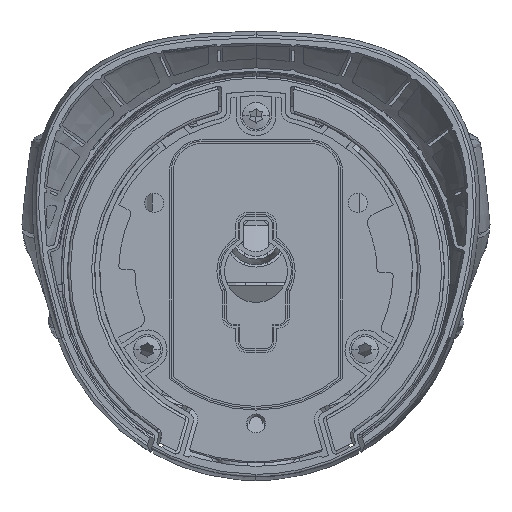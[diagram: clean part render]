
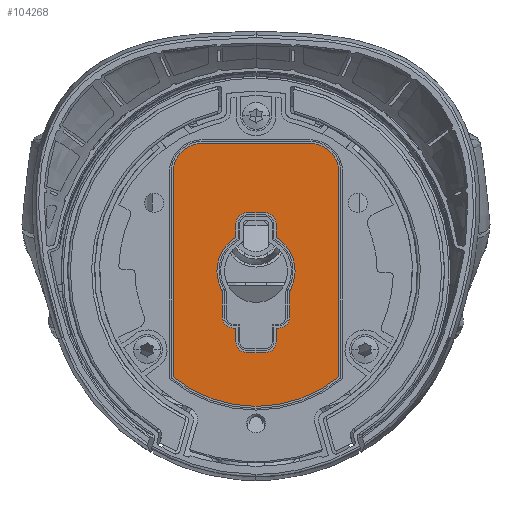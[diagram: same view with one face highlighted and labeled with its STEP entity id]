
A CAD part, front view. The second image highlights one B-rep face of the part: STEP entity #104268.
In plain terms, the highlighted planar face has unit normal (0, -1, 0).
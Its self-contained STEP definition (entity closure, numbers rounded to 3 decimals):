
#104038=DIRECTION('',(1.,0.,0.));
#104039=VECTOR('',#104038,0.52);
#104040=CARTESIAN_POINT('',(-4.2,-101.6,18.52));
#104041=LINE('',#104040,#104039);
#104042=DIRECTION('',(0.,0.,-1.));
#104043=VECTOR('',#104042,2.52);
#104044=CARTESIAN_POINT('',(-3.68,-101.6,18.52));
#104045=LINE('',#104044,#104043);
#104046=CARTESIAN_POINT('',(-1.7,-101.6,16.));
#104047=DIRECTION('',(0.,-1.,0.));
#104048=DIRECTION('',(-1.,0.,0.));
#104049=AXIS2_PLACEMENT_3D('',#104046,#104047,#104048);
#104051=DIRECTION('',(1.,0.,0.));
#104052=VECTOR('',#104051,3.4);
#104053=CARTESIAN_POINT('',(-1.7,-101.6,14.02));
#104054=LINE('',#104053,#104052);
#104055=CARTESIAN_POINT('',(1.7,-101.6,16.));
#104056=DIRECTION('',(0.,-1.,0.));
#104057=DIRECTION('',(0.,0.,-1.));
#104058=AXIS2_PLACEMENT_3D('',#104055,#104056,#104057);
#104060=DIRECTION('',(0.,0.,1.));
#104061=VECTOR('',#104060,2.52);
#104062=CARTESIAN_POINT('',(3.68,-101.6,16.));
#104063=LINE('',#104062,#104061);
#104064=DIRECTION('',(1.,0.,0.));
#104065=VECTOR('',#104064,0.52);
#104066=CARTESIAN_POINT('',(3.68,-101.6,18.52));
#104067=LINE('',#104066,#104065);
#104068=CARTESIAN_POINT('',(4.2,-101.6,20.5));
#104069=DIRECTION('',(0.,-1.,0.));
#104070=DIRECTION('',(0.,0.,-1.));
#104071=AXIS2_PLACEMENT_3D('',#104068,#104069,#104070);
#104073=DIRECTION('',(0.,0.,1.));
#104074=VECTOR('',#104073,4.679);
#104075=CARTESIAN_POINT('',(6.18,-101.6,20.5));
#104076=LINE('',#104075,#104074);
#104077=CARTESIAN_POINT('',(6.8,-101.6,25.179));
#104078=DIRECTION('',(0.,1.,0.));
#104079=DIRECTION('',(-1.,0.,0.));
#104080=AXIS2_PLACEMENT_3D('',#104077,#104078,#104079);
#104082=CARTESIAN_POINT('',(0.,-101.6,29.));
#104083=DIRECTION('',(0.,-1.,0.));
#104084=DIRECTION('',(0.872,0.,-0.49));
#104085=AXIS2_PLACEMENT_3D('',#104082,#104083,#104084);
#104087=DIRECTION('',(0.,0.,1.));
#104088=VECTOR('',#104087,2.535);
#104089=CARTESIAN_POINT('',(3.68,-101.6,35.165));
#104090=LINE('',#104089,#104088);
#104091=CARTESIAN_POINT('',(1.7,-101.6,37.7));
#104092=DIRECTION('',(0.,-1.,0.));
#104093=DIRECTION('',(1.,0.,0.));
#104094=AXIS2_PLACEMENT_3D('',#104091,#104092,#104093);
#104096=DIRECTION('',(-1.,0.,0.));
#104097=VECTOR('',#104096,3.4);
#104098=CARTESIAN_POINT('',(1.7,-101.6,39.68));
#104099=LINE('',#104098,#104097);
#104100=CARTESIAN_POINT('',(-1.7,-101.6,37.7));
#104101=DIRECTION('',(0.,-1.,0.));
#104102=DIRECTION('',(0.,0.,1.));
#104103=AXIS2_PLACEMENT_3D('',#104100,#104101,#104102);
#104105=DIRECTION('',(0.,0.,-1.));
#104106=VECTOR('',#104105,2.535);
#104107=CARTESIAN_POINT('',(-3.68,-101.6,37.7));
#104108=LINE('',#104107,#104106);
#104109=CARTESIAN_POINT('',(0.,-101.6,29.));
#104110=DIRECTION('',(0.,-1.,0.));
#104111=DIRECTION('',(-0.513,0.,0.859));
#104112=AXIS2_PLACEMENT_3D('',#104109,#104110,#104111);
#104114=CARTESIAN_POINT('',(-6.8,-101.6,25.179));
#104115=DIRECTION('',(0.,1.,0.));
#104116=DIRECTION('',(0.872,0.,0.49));
#104117=AXIS2_PLACEMENT_3D('',#104114,#104115,#104116);
#104119=DIRECTION('',(0.,0.,-1.));
#104120=VECTOR('',#104119,4.679);
#104121=CARTESIAN_POINT('',(-6.18,-101.6,25.179));
#104122=LINE('',#104121,#104120);
#104123=CARTESIAN_POINT('',(-4.2,-101.6,20.5));
#104124=DIRECTION('',(0.,-1.,0.));
#104125=DIRECTION('',(-1.,0.,0.));
#104126=AXIS2_PLACEMENT_3D('',#104123,#104124,#104125);
#104128=DIRECTION('',(0.,0.,-1.));
#104129=VECTOR('',#104128,37.557);
#104130=CARTESIAN_POINT('',(15.22,-101.6,47.1));
#104131=LINE('',#104130,#104129);
#104132=CARTESIAN_POINT('',(0.,-101.6,28.255));
#104133=DIRECTION('',(0.,1.,0.));
#104134=DIRECTION('',(0.631,0.,-0.776));
#104135=AXIS2_PLACEMENT_3D('',#104132,#104133,#104134);
#104137=DIRECTION('',(0.,0.,1.));
#104138=VECTOR('',#104137,37.557);
#104139=CARTESIAN_POINT('',(-15.22,-101.6,9.543));
#104140=LINE('',#104139,#104138);
#104141=CARTESIAN_POINT('',(-9.9,-101.6,47.1));
#104142=DIRECTION('',(0.,1.,0.));
#104143=DIRECTION('',(-1.,0.,0.));
#104144=AXIS2_PLACEMENT_3D('',#104141,#104142,#104143);
#104146=DIRECTION('',(1.,0.,0.));
#104147=VECTOR('',#104146,19.8);
#104148=CARTESIAN_POINT('',(-9.9,-101.6,52.42));
#104149=LINE('',#104148,#104147);
#104150=CARTESIAN_POINT('',(9.9,-101.6,47.1));
#104151=DIRECTION('',(0.,1.,0.));
#104152=DIRECTION('',(0.,0.,1.));
#104153=AXIS2_PLACEMENT_3D('',#104150,#104151,#104152);
#104155=CARTESIAN_POINT('',(-4.2,-101.6,18.52));
#104156=CARTESIAN_POINT('',(-3.68,-101.6,18.52));
#104157=VERTEX_POINT('',#104155);
#104158=VERTEX_POINT('',#104156);
#104159=CARTESIAN_POINT('',(-6.18,-101.6,20.5));
#104160=VERTEX_POINT('',#104159);
#104161=CARTESIAN_POINT('',(-6.18,-101.6,25.179));
#104162=VERTEX_POINT('',#104161);
#104163=CARTESIAN_POINT('',(-6.259,-101.6,25.483));
#104164=VERTEX_POINT('',#104163);
#104165=CARTESIAN_POINT('',(-3.68,-101.6,35.165));
#104166=VERTEX_POINT('',#104165);
#104167=CARTESIAN_POINT('',(-3.68,-101.6,37.7));
#104168=VERTEX_POINT('',#104167);
#104169=CARTESIAN_POINT('',(-1.7,-101.6,39.68));
#104170=VERTEX_POINT('',#104169);
#104171=CARTESIAN_POINT('',(1.7,-101.6,39.68));
#104172=VERTEX_POINT('',#104171);
#104173=CARTESIAN_POINT('',(3.68,-101.6,37.7));
#104174=VERTEX_POINT('',#104173);
#104175=CARTESIAN_POINT('',(3.68,-101.6,35.165));
#104176=VERTEX_POINT('',#104175);
#104177=CARTESIAN_POINT('',(6.259,-101.6,25.483));
#104178=VERTEX_POINT('',#104177);
#104179=CARTESIAN_POINT('',(6.18,-101.6,25.179));
#104180=VERTEX_POINT('',#104179);
#104181=CARTESIAN_POINT('',(6.18,-101.6,20.5));
#104182=VERTEX_POINT('',#104181);
#104183=CARTESIAN_POINT('',(4.2,-101.6,18.52));
#104184=VERTEX_POINT('',#104183);
#104185=CARTESIAN_POINT('',(3.68,-101.6,18.52));
#104186=VERTEX_POINT('',#104185);
#104187=CARTESIAN_POINT('',(3.68,-101.6,16.));
#104188=VERTEX_POINT('',#104187);
#104189=CARTESIAN_POINT('',(1.7,-101.6,14.02));
#104190=VERTEX_POINT('',#104189);
#104191=CARTESIAN_POINT('',(-1.7,-101.6,14.02));
#104192=VERTEX_POINT('',#104191);
#104193=CARTESIAN_POINT('',(-3.68,-101.6,16.));
#104194=VERTEX_POINT('',#104193);
#104195=CARTESIAN_POINT('',(15.22,-101.6,47.1));
#104196=CARTESIAN_POINT('',(15.22,-101.6,9.543));
#104197=VERTEX_POINT('',#104195);
#104198=VERTEX_POINT('',#104196);
#104199=CARTESIAN_POINT('',(9.9,-101.6,52.42));
#104200=VERTEX_POINT('',#104199);
#104201=CARTESIAN_POINT('',(-9.9,-101.6,52.42));
#104202=VERTEX_POINT('',#104201);
#104203=CARTESIAN_POINT('',(-15.22,-101.6,47.1));
#104204=VERTEX_POINT('',#104203);
#104205=CARTESIAN_POINT('',(-15.22,-101.6,9.543));
#104206=VERTEX_POINT('',#104205);
#104207=CARTESIAN_POINT('',(0.,-101.6,0.));
#104208=DIRECTION('',(0.,-1.,0.));
#104209=DIRECTION('',(1.,0.,0.));
#104210=AXIS2_PLACEMENT_3D('',#104207,#104208,#104209);
#104211=PLANE('',#104210);
#104213=ORIENTED_EDGE('',*,*,#104212,.T.);
#104215=ORIENTED_EDGE('',*,*,#104214,.T.);
#104217=ORIENTED_EDGE('',*,*,#104216,.T.);
#104219=ORIENTED_EDGE('',*,*,#104218,.T.);
#104221=ORIENTED_EDGE('',*,*,#104220,.T.);
#104223=ORIENTED_EDGE('',*,*,#104222,.T.);
#104224=EDGE_LOOP('',(#104213,#104215,#104217,#104219,#104221,#104223));
#104225=FACE_OUTER_BOUND('',#104224,.F.);
#104227=ORIENTED_EDGE('',*,*,#104226,.T.);
#104229=ORIENTED_EDGE('',*,*,#104228,.T.);
#104231=ORIENTED_EDGE('',*,*,#104230,.T.);
#104233=ORIENTED_EDGE('',*,*,#104232,.T.);
#104235=ORIENTED_EDGE('',*,*,#104234,.T.);
#104237=ORIENTED_EDGE('',*,*,#104236,.T.);
#104239=ORIENTED_EDGE('',*,*,#104238,.T.);
#104241=ORIENTED_EDGE('',*,*,#104240,.T.);
#104243=ORIENTED_EDGE('',*,*,#104242,.T.);
#104245=ORIENTED_EDGE('',*,*,#104244,.T.);
#104247=ORIENTED_EDGE('',*,*,#104246,.T.);
#104249=ORIENTED_EDGE('',*,*,#104248,.T.);
#104251=ORIENTED_EDGE('',*,*,#104250,.T.);
#104253=ORIENTED_EDGE('',*,*,#104252,.T.);
#104255=ORIENTED_EDGE('',*,*,#104254,.T.);
#104257=ORIENTED_EDGE('',*,*,#104256,.T.);
#104259=ORIENTED_EDGE('',*,*,#104258,.T.);
#104261=ORIENTED_EDGE('',*,*,#104260,.T.);
#104263=ORIENTED_EDGE('',*,*,#104262,.T.);
#104265=ORIENTED_EDGE('',*,*,#104264,.T.);
#104266=EDGE_LOOP('',(#104227,#104229,#104231,#104233,#104235,#104237,#104239,
#104241,#104243,#104245,#104247,#104249,#104251,#104253,#104255,#104257,#104259,
#104261,#104263,#104265));
#104267=FACE_BOUND('',#104266,.F.);
#104268=ADVANCED_FACE('',(#104225,#104267),#104211,.T.);
#104050=CIRCLE('',#104049,1.98);
#104059=CIRCLE('',#104058,1.98);
#104072=CIRCLE('',#104071,1.98);
#104081=CIRCLE('',#104080,0.62);
#104086=CIRCLE('',#104085,7.18);
#104095=CIRCLE('',#104094,1.98);
#104104=CIRCLE('',#104103,1.98);
#104113=CIRCLE('',#104112,7.18);
#104118=CIRCLE('',#104117,0.62);
#104127=CIRCLE('',#104126,1.98);
#104136=CIRCLE('',#104135,24.12);
#104145=CIRCLE('',#104144,5.32);
#104154=CIRCLE('',#104153,5.32);
#104212=EDGE_CURVE('',#104197,#104198,#104131,.T.);
#104214=EDGE_CURVE('',#104198,#104206,#104136,.T.);
#104216=EDGE_CURVE('',#104206,#104204,#104140,.T.);
#104218=EDGE_CURVE('',#104204,#104202,#104145,.T.);
#104220=EDGE_CURVE('',#104202,#104200,#104149,.T.);
#104222=EDGE_CURVE('',#104200,#104197,#104154,.T.);
#104226=EDGE_CURVE('',#104157,#104158,#104041,.T.);
#104228=EDGE_CURVE('',#104158,#104194,#104045,.T.);
#104230=EDGE_CURVE('',#104194,#104192,#104050,.T.);
#104232=EDGE_CURVE('',#104192,#104190,#104054,.T.);
#104234=EDGE_CURVE('',#104190,#104188,#104059,.T.);
#104236=EDGE_CURVE('',#104188,#104186,#104063,.T.);
#104238=EDGE_CURVE('',#104186,#104184,#104067,.T.);
#104240=EDGE_CURVE('',#104184,#104182,#104072,.T.);
#104242=EDGE_CURVE('',#104182,#104180,#104076,.T.);
#104244=EDGE_CURVE('',#104180,#104178,#104081,.T.);
#104246=EDGE_CURVE('',#104178,#104176,#104086,.T.);
#104248=EDGE_CURVE('',#104176,#104174,#104090,.T.);
#104250=EDGE_CURVE('',#104174,#104172,#104095,.T.);
#104252=EDGE_CURVE('',#104172,#104170,#104099,.T.);
#104254=EDGE_CURVE('',#104170,#104168,#104104,.T.);
#104256=EDGE_CURVE('',#104168,#104166,#104108,.T.);
#104258=EDGE_CURVE('',#104166,#104164,#104113,.T.);
#104260=EDGE_CURVE('',#104164,#104162,#104118,.T.);
#104262=EDGE_CURVE('',#104162,#104160,#104122,.T.);
#104264=EDGE_CURVE('',#104160,#104157,#104127,.T.);
